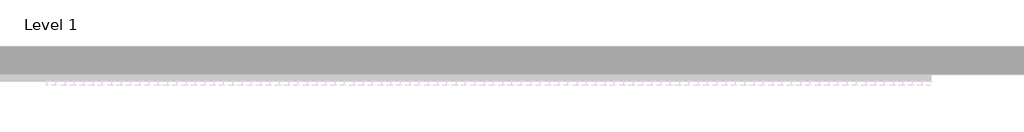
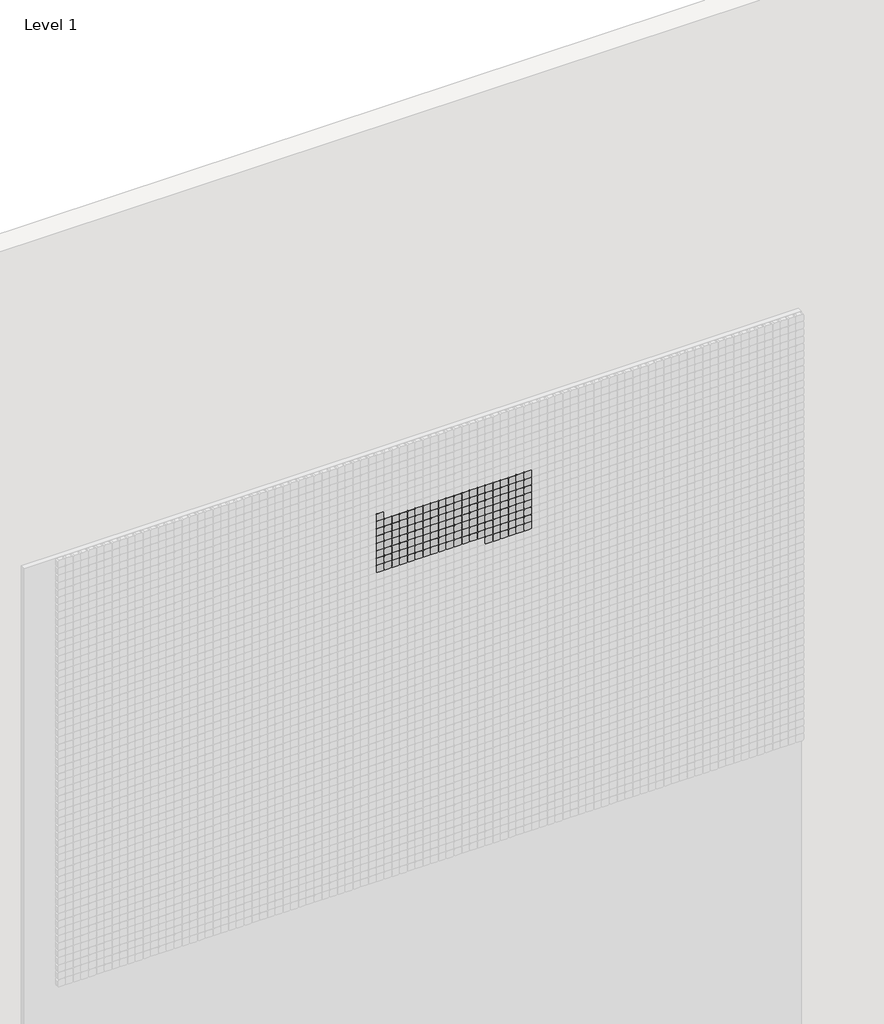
# One storey, part 36 of 71: 147 proxies.
"""IFC4 building model written with IfcOpenShell, lengths in millimetres."""

from ifc_helpers import new_model, si_unit, origin, place, context, project, spatial, transform, mapped, element, save
from components import generic_models_afde289c

model = new_model("IFC4")

# Units and contexts
model_context = context("Model", 3, world=origin())
ifc_project = project(units=[si_unit("LENGTHUNIT", "METRE", prefix="MILLI")], contexts=[model_context])

# Site, building, storey
site = spatial("IfcSite", under=ifc_project)
building = spatial("IfcBuilding", under=site)
storey = spatial("IfcBuildingStorey", under=building, Name="Level 1", Elevation=0.0)

# Proxies
placement = place(None, origin())
generic_models_shape = generic_models_afde289c(model_context)
element("IfcBuildingElementProxy", 1, Name="Pixel_M : Pixel_M", ObjectType="Pixel_M : Pixel_M", at=placement, inside=storey, context=model_context, shape_type="MappedRepresentation", body=[
    mapped(generic_models_shape, transform((7012.4280941, -75.0, 5566.3566215), x_axis=(1.0, 0.0, 0.0), y_axis=(0.0, 0.0, 1.0), z_axis=(0.0, -1.0, 0.0))),
])
element("IfcBuildingElementProxy", 2, Name="Pixel_M : Pixel_M", ObjectType="Pixel_M : Pixel_M", at=placement, inside=storey, context=model_context, shape_type="MappedRepresentation", body=[
    mapped(generic_models_shape, transform((7962.4280941, -75.0, 5516.3566215), x_axis=(1.0, 0.0, 0.0), y_axis=(0.0, 0.0, 1.0), z_axis=(0.0, -1.0, 0.0))),
])
element("IfcBuildingElementProxy", 3, Name="Pixel_M : Pixel_M", ObjectType="Pixel_M : Pixel_M", at=placement, inside=storey, context=model_context, shape_type="MappedRepresentation", body=[
    mapped(generic_models_shape, transform((7912.4280941, -75.0, 5516.3566215), x_axis=(1.0, 0.0, 0.0), y_axis=(0.0, 0.0, 1.0), z_axis=(0.0, -1.0, 0.0))),
])
element("IfcBuildingElementProxy", 4, Name="Pixel_M : Pixel_M", ObjectType="Pixel_M : Pixel_M", at=placement, inside=storey, context=model_context, shape_type="MappedRepresentation", body=[
    mapped(generic_models_shape, transform((7862.4280941, -75.0, 5516.3566215), x_axis=(1.0, 0.0, 0.0), y_axis=(0.0, 0.0, 1.0), z_axis=(0.0, -1.0, 0.0))),
])
element("IfcBuildingElementProxy", 5, Name="Pixel_M : Pixel_M", ObjectType="Pixel_M : Pixel_M", at=placement, inside=storey, context=model_context, shape_type="MappedRepresentation", body=[
    mapped(generic_models_shape, transform((7812.4280941, -75.0, 5516.3566215), x_axis=(1.0, 0.0, 0.0), y_axis=(0.0, 0.0, 1.0), z_axis=(0.0, -1.0, 0.0))),
])
element("IfcBuildingElementProxy", 6, Name="Pixel_M : Pixel_M", ObjectType="Pixel_M : Pixel_M", at=placement, inside=storey, context=model_context, shape_type="MappedRepresentation", body=[
    mapped(generic_models_shape, transform((7762.4280941, -75.0, 5516.3566215), x_axis=(1.0, 0.0, 0.0), y_axis=(0.0, 0.0, 1.0), z_axis=(0.0, -1.0, 0.0))),
])
element("IfcBuildingElementProxy", 7, Name="Pixel_M : Pixel_M", ObjectType="Pixel_M : Pixel_M", at=placement, inside=storey, context=model_context, shape_type="MappedRepresentation", body=[
    mapped(generic_models_shape, transform((7712.4280941, -75.0, 5516.3566215), x_axis=(1.0, 0.0, 0.0), y_axis=(0.0, 0.0, 1.0), z_axis=(0.0, -1.0, 0.0))),
])
element("IfcBuildingElementProxy", 8, Name="Pixel_M : Pixel_M", ObjectType="Pixel_M : Pixel_M", at=placement, inside=storey, context=model_context, shape_type="MappedRepresentation", body=[
    mapped(generic_models_shape, transform((7662.4280941, -75.0, 5516.3566215), x_axis=(1.0, 0.0, 0.0), y_axis=(0.0, 0.0, 1.0), z_axis=(0.0, -1.0, 0.0))),
])
element("IfcBuildingElementProxy", 9, Name="Pixel_M : Pixel_M", ObjectType="Pixel_M : Pixel_M", at=placement, inside=storey, context=model_context, shape_type="MappedRepresentation", body=[
    mapped(generic_models_shape, transform((7612.4280941, -75.0, 5516.3566215), x_axis=(1.0, 0.0, 0.0), y_axis=(0.0, 0.0, 1.0), z_axis=(0.0, -1.0, 0.0))),
])
element("IfcBuildingElementProxy", 10, Name="Pixel_M : Pixel_M", ObjectType="Pixel_M : Pixel_M", at=placement, inside=storey, context=model_context, shape_type="MappedRepresentation", body=[
    mapped(generic_models_shape, transform((7562.4280941, -75.0, 5516.3566215), x_axis=(1.0, 0.0, 0.0), y_axis=(0.0, 0.0, 1.0), z_axis=(0.0, -1.0, 0.0))),
])
element("IfcBuildingElementProxy", 11, Name="Pixel_M : Pixel_M", ObjectType="Pixel_M : Pixel_M", at=placement, inside=storey, context=model_context, shape_type="MappedRepresentation", body=[
    mapped(generic_models_shape, transform((7512.4280941, -75.0, 5516.3566215), x_axis=(1.0, 0.0, 0.0), y_axis=(0.0, 0.0, 1.0), z_axis=(0.0, -1.0, 0.0))),
])
element("IfcBuildingElementProxy", 12, Name="Pixel_M : Pixel_M", ObjectType="Pixel_M : Pixel_M", at=placement, inside=storey, context=model_context, shape_type="MappedRepresentation", body=[
    mapped(generic_models_shape, transform((7462.4280941, -75.0, 5516.3566215), x_axis=(1.0, 0.0, 0.0), y_axis=(0.0, 0.0, 1.0), z_axis=(0.0, -1.0, 0.0))),
])
element("IfcBuildingElementProxy", 13, Name="Pixel_M : Pixel_M", ObjectType="Pixel_M : Pixel_M", at=placement, inside=storey, context=model_context, shape_type="MappedRepresentation", body=[
    mapped(generic_models_shape, transform((7412.4280941, -75.0, 5516.3566215), x_axis=(1.0, 0.0, 0.0), y_axis=(0.0, 0.0, 1.0), z_axis=(0.0, -1.0, 0.0))),
])
element("IfcBuildingElementProxy", 14, Name="Pixel_M : Pixel_M", ObjectType="Pixel_M : Pixel_M", at=placement, inside=storey, context=model_context, shape_type="MappedRepresentation", body=[
    mapped(generic_models_shape, transform((7362.4280941, -75.0, 5516.3566215), x_axis=(1.0, 0.0, 0.0), y_axis=(0.0, 0.0, 1.0), z_axis=(0.0, -1.0, 0.0))),
])
element("IfcBuildingElementProxy", 15, Name="Pixel_M : Pixel_M", ObjectType="Pixel_M : Pixel_M", at=placement, inside=storey, context=model_context, shape_type="MappedRepresentation", body=[
    mapped(generic_models_shape, transform((7312.4280941, -75.0, 5516.3566215), x_axis=(1.0, 0.0, 0.0), y_axis=(0.0, 0.0, 1.0), z_axis=(0.0, -1.0, 0.0))),
])
element("IfcBuildingElementProxy", 16, Name="Pixel_M : Pixel_M", ObjectType="Pixel_M : Pixel_M", at=placement, inside=storey, context=model_context, shape_type="MappedRepresentation", body=[
    mapped(generic_models_shape, transform((7262.4280941, -75.0, 5516.3566215), x_axis=(1.0, 0.0, 0.0), y_axis=(0.0, 0.0, 1.0), z_axis=(0.0, -1.0, 0.0))),
])
element("IfcBuildingElementProxy", 17, Name="Pixel_M : Pixel_M", ObjectType="Pixel_M : Pixel_M", at=placement, inside=storey, context=model_context, shape_type="MappedRepresentation", body=[
    mapped(generic_models_shape, transform((7212.4280941, -75.0, 5516.3566215), x_axis=(1.0, 0.0, 0.0), y_axis=(0.0, 0.0, 1.0), z_axis=(0.0, -1.0, 0.0))),
])
element("IfcBuildingElementProxy", 18, Name="Pixel_M : Pixel_M", ObjectType="Pixel_M : Pixel_M", at=placement, inside=storey, context=model_context, shape_type="MappedRepresentation", body=[
    mapped(generic_models_shape, transform((7162.4280941, -75.0, 5516.3566215), x_axis=(1.0, 0.0, 0.0), y_axis=(0.0, 0.0, 1.0), z_axis=(0.0, -1.0, 0.0))),
])
element("IfcBuildingElementProxy", 19, Name="Pixel_M : Pixel_M", ObjectType="Pixel_M : Pixel_M", at=placement, inside=storey, context=model_context, shape_type="MappedRepresentation", body=[
    mapped(generic_models_shape, transform((7112.4280941, -75.0, 5516.3566215), x_axis=(1.0, 0.0, 0.0), y_axis=(0.0, 0.0, 1.0), z_axis=(0.0, -1.0, 0.0))),
])
element("IfcBuildingElementProxy", 20, Name="Pixel_M : Pixel_M", ObjectType="Pixel_M : Pixel_M", at=placement, inside=storey, context=model_context, shape_type="MappedRepresentation", body=[
    mapped(generic_models_shape, transform((7062.4280941, -75.0, 5516.3566215), x_axis=(1.0, 0.0, 0.0), y_axis=(0.0, 0.0, 1.0), z_axis=(0.0, -1.0, 0.0))),
])
element("IfcBuildingElementProxy", 21, Name="Pixel_M : Pixel_M", ObjectType="Pixel_M : Pixel_M", at=placement, inside=storey, context=model_context, shape_type="MappedRepresentation", body=[
    mapped(generic_models_shape, transform((7012.4280941, -75.0, 5516.3566215), x_axis=(1.0, 0.0, 0.0), y_axis=(0.0, 0.0, 1.0), z_axis=(0.0, -1.0, 0.0))),
])
element("IfcBuildingElementProxy", 22, Name="Pixel_M : Pixel_M", ObjectType="Pixel_M : Pixel_M", at=placement, inside=storey, context=model_context, shape_type="MappedRepresentation", body=[
    mapped(generic_models_shape, transform((7962.4280941, -75.0, 5466.3566215), x_axis=(1.0, 0.0, 0.0), y_axis=(0.0, 0.0, 1.0), z_axis=(0.0, -1.0, 0.0))),
])
element("IfcBuildingElementProxy", 23, Name="Pixel_M : Pixel_M", ObjectType="Pixel_M : Pixel_M", at=placement, inside=storey, context=model_context, shape_type="MappedRepresentation", body=[
    mapped(generic_models_shape, transform((7912.4280941, -75.0, 5466.3566215), x_axis=(1.0, 0.0, 0.0), y_axis=(0.0, 0.0, 1.0), z_axis=(0.0, -1.0, 0.0))),
])
element("IfcBuildingElementProxy", 24, Name="Pixel_M : Pixel_M", ObjectType="Pixel_M : Pixel_M", at=placement, inside=storey, context=model_context, shape_type="MappedRepresentation", body=[
    mapped(generic_models_shape, transform((7862.4280941, -75.0, 5466.3566215), x_axis=(1.0, 0.0, 0.0), y_axis=(0.0, 0.0, 1.0), z_axis=(0.0, -1.0, 0.0))),
])
element("IfcBuildingElementProxy", 25, Name="Pixel_M : Pixel_M", ObjectType="Pixel_M : Pixel_M", at=placement, inside=storey, context=model_context, shape_type="MappedRepresentation", body=[
    mapped(generic_models_shape, transform((7812.4280941, -75.0, 5466.3566215), x_axis=(1.0, 0.0, 0.0), y_axis=(0.0, 0.0, 1.0), z_axis=(0.0, -1.0, 0.0))),
])
element("IfcBuildingElementProxy", 26, Name="Pixel_M : Pixel_M", ObjectType="Pixel_M : Pixel_M", at=placement, inside=storey, context=model_context, shape_type="MappedRepresentation", body=[
    mapped(generic_models_shape, transform((7762.4280941, -75.0, 5466.3566215), x_axis=(1.0, 0.0, 0.0), y_axis=(0.0, 0.0, 1.0), z_axis=(0.0, -1.0, 0.0))),
])
element("IfcBuildingElementProxy", 27, Name="Pixel_M : Pixel_M", ObjectType="Pixel_M : Pixel_M", at=placement, inside=storey, context=model_context, shape_type="MappedRepresentation", body=[
    mapped(generic_models_shape, transform((7712.4280941, -75.0, 5466.3566215), x_axis=(1.0, 0.0, 0.0), y_axis=(0.0, 0.0, 1.0), z_axis=(0.0, -1.0, 0.0))),
])
element("IfcBuildingElementProxy", 28, Name="Pixel_M : Pixel_M", ObjectType="Pixel_M : Pixel_M", at=placement, inside=storey, context=model_context, shape_type="MappedRepresentation", body=[
    mapped(generic_models_shape, transform((7662.4280941, -75.0, 5466.3566215), x_axis=(1.0, 0.0, 0.0), y_axis=(0.0, 0.0, 1.0), z_axis=(0.0, -1.0, 0.0))),
])
element("IfcBuildingElementProxy", 29, Name="Pixel_M : Pixel_M", ObjectType="Pixel_M : Pixel_M", at=placement, inside=storey, context=model_context, shape_type="MappedRepresentation", body=[
    mapped(generic_models_shape, transform((7612.4280941, -75.0, 5466.3566215), x_axis=(1.0, 0.0, 0.0), y_axis=(0.0, 0.0, 1.0), z_axis=(0.0, -1.0, 0.0))),
])
element("IfcBuildingElementProxy", 30, Name="Pixel_M : Pixel_M", ObjectType="Pixel_M : Pixel_M", at=placement, inside=storey, context=model_context, shape_type="MappedRepresentation", body=[
    mapped(generic_models_shape, transform((7562.4280941, -75.0, 5466.3566215), x_axis=(1.0, 0.0, 0.0), y_axis=(0.0, 0.0, 1.0), z_axis=(0.0, -1.0, 0.0))),
])
element("IfcBuildingElementProxy", 31, Name="Pixel_M : Pixel_M", ObjectType="Pixel_M : Pixel_M", at=placement, inside=storey, context=model_context, shape_type="MappedRepresentation", body=[
    mapped(generic_models_shape, transform((7512.4280941, -75.0, 5466.3566215), x_axis=(1.0, 0.0, 0.0), y_axis=(0.0, 0.0, 1.0), z_axis=(0.0, -1.0, 0.0))),
])
element("IfcBuildingElementProxy", 32, Name="Pixel_M : Pixel_M", ObjectType="Pixel_M : Pixel_M", at=placement, inside=storey, context=model_context, shape_type="MappedRepresentation", body=[
    mapped(generic_models_shape, transform((7462.4280941, -75.0, 5466.3566215), x_axis=(1.0, 0.0, 0.0), y_axis=(0.0, 0.0, 1.0), z_axis=(0.0, -1.0, 0.0))),
])
element("IfcBuildingElementProxy", 33, Name="Pixel_M : Pixel_M", ObjectType="Pixel_M : Pixel_M", at=placement, inside=storey, context=model_context, shape_type="MappedRepresentation", body=[
    mapped(generic_models_shape, transform((7412.4280941, -75.0, 5466.3566215), x_axis=(1.0, 0.0, 0.0), y_axis=(0.0, 0.0, 1.0), z_axis=(0.0, -1.0, 0.0))),
])
element("IfcBuildingElementProxy", 34, Name="Pixel_M : Pixel_M", ObjectType="Pixel_M : Pixel_M", at=placement, inside=storey, context=model_context, shape_type="MappedRepresentation", body=[
    mapped(generic_models_shape, transform((7362.4280941, -75.0, 5466.3566215), x_axis=(1.0, 0.0, 0.0), y_axis=(0.0, 0.0, 1.0), z_axis=(0.0, -1.0, 0.0))),
])
element("IfcBuildingElementProxy", 35, Name="Pixel_M : Pixel_M", ObjectType="Pixel_M : Pixel_M", at=placement, inside=storey, context=model_context, shape_type="MappedRepresentation", body=[
    mapped(generic_models_shape, transform((7312.4280941, -75.0, 5466.3566215), x_axis=(1.0, 0.0, 0.0), y_axis=(0.0, 0.0, 1.0), z_axis=(0.0, -1.0, 0.0))),
])
element("IfcBuildingElementProxy", 36, Name="Pixel_M : Pixel_M", ObjectType="Pixel_M : Pixel_M", at=placement, inside=storey, context=model_context, shape_type="MappedRepresentation", body=[
    mapped(generic_models_shape, transform((7262.4280941, -75.0, 5466.3566215), x_axis=(1.0, 0.0, 0.0), y_axis=(0.0, 0.0, 1.0), z_axis=(0.0, -1.0, 0.0))),
])
element("IfcBuildingElementProxy", 37, Name="Pixel_M : Pixel_M", ObjectType="Pixel_M : Pixel_M", at=placement, inside=storey, context=model_context, shape_type="MappedRepresentation", body=[
    mapped(generic_models_shape, transform((7212.4280941, -75.0, 5466.3566215), x_axis=(1.0, 0.0, 0.0), y_axis=(0.0, 0.0, 1.0), z_axis=(0.0, -1.0, 0.0))),
])
element("IfcBuildingElementProxy", 38, Name="Pixel_M : Pixel_M", ObjectType="Pixel_M : Pixel_M", at=placement, inside=storey, context=model_context, shape_type="MappedRepresentation", body=[
    mapped(generic_models_shape, transform((7162.4280941, -75.0, 5466.3566215), x_axis=(1.0, 0.0, 0.0), y_axis=(0.0, 0.0, 1.0), z_axis=(0.0, -1.0, 0.0))),
])
element("IfcBuildingElementProxy", 39, Name="Pixel_M : Pixel_M", ObjectType="Pixel_M : Pixel_M", at=placement, inside=storey, context=model_context, shape_type="MappedRepresentation", body=[
    mapped(generic_models_shape, transform((7112.4280941, -75.0, 5466.3566215), x_axis=(1.0, 0.0, 0.0), y_axis=(0.0, 0.0, 1.0), z_axis=(0.0, -1.0, 0.0))),
])
element("IfcBuildingElementProxy", 40, Name="Pixel_M : Pixel_M", ObjectType="Pixel_M : Pixel_M", at=placement, inside=storey, context=model_context, shape_type="MappedRepresentation", body=[
    mapped(generic_models_shape, transform((7062.4280941, -75.0, 5466.3566215), x_axis=(1.0, 0.0, 0.0), y_axis=(0.0, 0.0, 1.0), z_axis=(0.0, -1.0, 0.0))),
])
element("IfcBuildingElementProxy", 41, Name="Pixel_M : Pixel_M", ObjectType="Pixel_M : Pixel_M", at=placement, inside=storey, context=model_context, shape_type="MappedRepresentation", body=[
    mapped(generic_models_shape, transform((7012.4280941, -75.0, 5466.3566215), x_axis=(1.0, 0.0, 0.0), y_axis=(0.0, 0.0, 1.0), z_axis=(0.0, -1.0, 0.0))),
])
element("IfcBuildingElementProxy", 42, Name="Pixel_M : Pixel_M", ObjectType="Pixel_M : Pixel_M", at=placement, inside=storey, context=model_context, shape_type="MappedRepresentation", body=[
    mapped(generic_models_shape, transform((7962.4280941, -75.0, 5416.3566215), x_axis=(1.0, 0.0, 0.0), y_axis=(0.0, 0.0, 1.0), z_axis=(0.0, -1.0, 0.0))),
])
element("IfcBuildingElementProxy", 43, Name="Pixel_M : Pixel_M", ObjectType="Pixel_M : Pixel_M", at=placement, inside=storey, context=model_context, shape_type="MappedRepresentation", body=[
    mapped(generic_models_shape, transform((7912.4280941, -75.0, 5416.3566215), x_axis=(1.0, 0.0, 0.0), y_axis=(0.0, 0.0, 1.0), z_axis=(0.0, -1.0, 0.0))),
])
element("IfcBuildingElementProxy", 44, Name="Pixel_M : Pixel_M", ObjectType="Pixel_M : Pixel_M", at=placement, inside=storey, context=model_context, shape_type="MappedRepresentation", body=[
    mapped(generic_models_shape, transform((7862.4280941, -75.0, 5416.3566215), x_axis=(1.0, 0.0, 0.0), y_axis=(0.0, 0.0, 1.0), z_axis=(0.0, -1.0, 0.0))),
])
element("IfcBuildingElementProxy", 45, Name="Pixel_M : Pixel_M", ObjectType="Pixel_M : Pixel_M", at=placement, inside=storey, context=model_context, shape_type="MappedRepresentation", body=[
    mapped(generic_models_shape, transform((7812.4280941, -75.0, 5416.3566215), x_axis=(1.0, 0.0, 0.0), y_axis=(0.0, 0.0, 1.0), z_axis=(0.0, -1.0, 0.0))),
])
element("IfcBuildingElementProxy", 46, Name="Pixel_M : Pixel_M", ObjectType="Pixel_M : Pixel_M", at=placement, inside=storey, context=model_context, shape_type="MappedRepresentation", body=[
    mapped(generic_models_shape, transform((7762.4280941, -75.0, 5416.3566215), x_axis=(1.0, 0.0, 0.0), y_axis=(0.0, 0.0, 1.0), z_axis=(0.0, -1.0, 0.0))),
])
element("IfcBuildingElementProxy", 47, Name="Pixel_M : Pixel_M", ObjectType="Pixel_M : Pixel_M", at=placement, inside=storey, context=model_context, shape_type="MappedRepresentation", body=[
    mapped(generic_models_shape, transform((7712.4280941, -75.0, 5416.3566215), x_axis=(1.0, 0.0, 0.0), y_axis=(0.0, 0.0, 1.0), z_axis=(0.0, -1.0, 0.0))),
])
element("IfcBuildingElementProxy", 48, Name="Pixel_M : Pixel_M", ObjectType="Pixel_M : Pixel_M", at=placement, inside=storey, context=model_context, shape_type="MappedRepresentation", body=[
    mapped(generic_models_shape, transform((7662.4280941, -75.0, 5416.3566215), x_axis=(1.0, 0.0, 0.0), y_axis=(0.0, 0.0, 1.0), z_axis=(0.0, -1.0, 0.0))),
])
element("IfcBuildingElementProxy", 49, Name="Pixel_M : Pixel_M", ObjectType="Pixel_M : Pixel_M", at=placement, inside=storey, context=model_context, shape_type="MappedRepresentation", body=[
    mapped(generic_models_shape, transform((7612.4280941, -75.0, 5416.3566215), x_axis=(1.0, 0.0, 0.0), y_axis=(0.0, 0.0, 1.0), z_axis=(0.0, -1.0, 0.0))),
])
element("IfcBuildingElementProxy", 50, Name="Pixel_M : Pixel_M", ObjectType="Pixel_M : Pixel_M", at=placement, inside=storey, context=model_context, shape_type="MappedRepresentation", body=[
    mapped(generic_models_shape, transform((7562.4280941, -75.0, 5416.3566215), x_axis=(1.0, 0.0, 0.0), y_axis=(0.0, 0.0, 1.0), z_axis=(0.0, -1.0, 0.0))),
])
element("IfcBuildingElementProxy", 51, Name="Pixel_M : Pixel_M", ObjectType="Pixel_M : Pixel_M", at=placement, inside=storey, context=model_context, shape_type="MappedRepresentation", body=[
    mapped(generic_models_shape, transform((7512.4280941, -75.0, 5416.3566215), x_axis=(1.0, 0.0, 0.0), y_axis=(0.0, 0.0, 1.0), z_axis=(0.0, -1.0, 0.0))),
])
element("IfcBuildingElementProxy", 52, Name="Pixel_M : Pixel_M", ObjectType="Pixel_M : Pixel_M", at=placement, inside=storey, context=model_context, shape_type="MappedRepresentation", body=[
    mapped(generic_models_shape, transform((7462.4280941, -75.0, 5416.3566215), x_axis=(1.0, 0.0, 0.0), y_axis=(0.0, 0.0, 1.0), z_axis=(0.0, -1.0, 0.0))),
])
element("IfcBuildingElementProxy", 53, Name="Pixel_M : Pixel_M", ObjectType="Pixel_M : Pixel_M", at=placement, inside=storey, context=model_context, shape_type="MappedRepresentation", body=[
    mapped(generic_models_shape, transform((7412.4280941, -75.0, 5416.3566215), x_axis=(1.0, 0.0, 0.0), y_axis=(0.0, 0.0, 1.0), z_axis=(0.0, -1.0, 0.0))),
])
element("IfcBuildingElementProxy", 54, Name="Pixel_M : Pixel_M", ObjectType="Pixel_M : Pixel_M", at=placement, inside=storey, context=model_context, shape_type="MappedRepresentation", body=[
    mapped(generic_models_shape, transform((7362.4280941, -75.0, 5416.3566215), x_axis=(1.0, 0.0, 0.0), y_axis=(0.0, 0.0, 1.0), z_axis=(0.0, -1.0, 0.0))),
])
element("IfcBuildingElementProxy", 55, Name="Pixel_M : Pixel_M", ObjectType="Pixel_M : Pixel_M", at=placement, inside=storey, context=model_context, shape_type="MappedRepresentation", body=[
    mapped(generic_models_shape, transform((7312.4280941, -75.0, 5416.3566215), x_axis=(1.0, 0.0, 0.0), y_axis=(0.0, 0.0, 1.0), z_axis=(0.0, -1.0, 0.0))),
])
element("IfcBuildingElementProxy", 56, Name="Pixel_M : Pixel_M", ObjectType="Pixel_M : Pixel_M", at=placement, inside=storey, context=model_context, shape_type="MappedRepresentation", body=[
    mapped(generic_models_shape, transform((7262.4280941, -75.0, 5416.3566215), x_axis=(1.0, 0.0, 0.0), y_axis=(0.0, 0.0, 1.0), z_axis=(0.0, -1.0, 0.0))),
])
element("IfcBuildingElementProxy", 57, Name="Pixel_M : Pixel_M", ObjectType="Pixel_M : Pixel_M", at=placement, inside=storey, context=model_context, shape_type="MappedRepresentation", body=[
    mapped(generic_models_shape, transform((7212.4280941, -75.0, 5416.3566215), x_axis=(1.0, 0.0, 0.0), y_axis=(0.0, 0.0, 1.0), z_axis=(0.0, -1.0, 0.0))),
])
element("IfcBuildingElementProxy", 58, Name="Pixel_M : Pixel_M", ObjectType="Pixel_M : Pixel_M", at=placement, inside=storey, context=model_context, shape_type="MappedRepresentation", body=[
    mapped(generic_models_shape, transform((7162.4280941, -75.0, 5416.3566215), x_axis=(1.0, 0.0, 0.0), y_axis=(0.0, 0.0, 1.0), z_axis=(0.0, -1.0, 0.0))),
])
element("IfcBuildingElementProxy", 59, Name="Pixel_M : Pixel_M", ObjectType="Pixel_M : Pixel_M", at=placement, inside=storey, context=model_context, shape_type="MappedRepresentation", body=[
    mapped(generic_models_shape, transform((7112.4280941, -75.0, 5416.3566215), x_axis=(1.0, 0.0, 0.0), y_axis=(0.0, 0.0, 1.0), z_axis=(0.0, -1.0, 0.0))),
])
element("IfcBuildingElementProxy", 60, Name="Pixel_M : Pixel_M", ObjectType="Pixel_M : Pixel_M", at=placement, inside=storey, context=model_context, shape_type="MappedRepresentation", body=[
    mapped(generic_models_shape, transform((7062.4280941, -75.0, 5416.3566215), x_axis=(1.0, 0.0, 0.0), y_axis=(0.0, 0.0, 1.0), z_axis=(0.0, -1.0, 0.0))),
])
element("IfcBuildingElementProxy", 61, Name="Pixel_M : Pixel_M", ObjectType="Pixel_M : Pixel_M", at=placement, inside=storey, context=model_context, shape_type="MappedRepresentation", body=[
    mapped(generic_models_shape, transform((7012.4280941, -75.0, 5416.3566215), x_axis=(1.0, 0.0, 0.0), y_axis=(0.0, 0.0, 1.0), z_axis=(0.0, -1.0, 0.0))),
])
element("IfcBuildingElementProxy", 62, Name="Pixel_M : Pixel_M", ObjectType="Pixel_M : Pixel_M", at=placement, inside=storey, context=model_context, shape_type="MappedRepresentation", body=[
    mapped(generic_models_shape, transform((7962.4280941, -75.0, 5366.3566215), x_axis=(1.0, 0.0, 0.0), y_axis=(0.0, 0.0, 1.0), z_axis=(0.0, -1.0, 0.0))),
])
element("IfcBuildingElementProxy", 63, Name="Pixel_M : Pixel_M", ObjectType="Pixel_M : Pixel_M", at=placement, inside=storey, context=model_context, shape_type="MappedRepresentation", body=[
    mapped(generic_models_shape, transform((7912.4280941, -75.0, 5366.3566215), x_axis=(1.0, 0.0, 0.0), y_axis=(0.0, 0.0, 1.0), z_axis=(0.0, -1.0, 0.0))),
])
element("IfcBuildingElementProxy", 64, Name="Pixel_M : Pixel_M", ObjectType="Pixel_M : Pixel_M", at=placement, inside=storey, context=model_context, shape_type="MappedRepresentation", body=[
    mapped(generic_models_shape, transform((7862.4280941, -75.0, 5366.3566215), x_axis=(1.0, 0.0, 0.0), y_axis=(0.0, 0.0, 1.0), z_axis=(0.0, -1.0, 0.0))),
])
element("IfcBuildingElementProxy", 65, Name="Pixel_M : Pixel_M", ObjectType="Pixel_M : Pixel_M", at=placement, inside=storey, context=model_context, shape_type="MappedRepresentation", body=[
    mapped(generic_models_shape, transform((7812.4280941, -75.0, 5366.3566215), x_axis=(1.0, 0.0, 0.0), y_axis=(0.0, 0.0, 1.0), z_axis=(0.0, -1.0, 0.0))),
])
element("IfcBuildingElementProxy", 66, Name="Pixel_M : Pixel_M", ObjectType="Pixel_M : Pixel_M", at=placement, inside=storey, context=model_context, shape_type="MappedRepresentation", body=[
    mapped(generic_models_shape, transform((7762.4280941, -75.0, 5366.3566215), x_axis=(1.0, 0.0, 0.0), y_axis=(0.0, 0.0, 1.0), z_axis=(0.0, -1.0, 0.0))),
])
element("IfcBuildingElementProxy", 67, Name="Pixel_M : Pixel_M", ObjectType="Pixel_M : Pixel_M", at=placement, inside=storey, context=model_context, shape_type="MappedRepresentation", body=[
    mapped(generic_models_shape, transform((7712.4280941, -75.0, 5366.3566215), x_axis=(1.0, 0.0, 0.0), y_axis=(0.0, 0.0, 1.0), z_axis=(0.0, -1.0, 0.0))),
])
element("IfcBuildingElementProxy", 68, Name="Pixel_M : Pixel_M", ObjectType="Pixel_M : Pixel_M", at=placement, inside=storey, context=model_context, shape_type="MappedRepresentation", body=[
    mapped(generic_models_shape, transform((7662.4280941, -75.0, 5366.3566215), x_axis=(1.0, 0.0, 0.0), y_axis=(0.0, 0.0, 1.0), z_axis=(0.0, -1.0, 0.0))),
])
element("IfcBuildingElementProxy", 69, Name="Pixel_M : Pixel_M", ObjectType="Pixel_M : Pixel_M", at=placement, inside=storey, context=model_context, shape_type="MappedRepresentation", body=[
    mapped(generic_models_shape, transform((7612.4280941, -75.0, 5366.3566215), x_axis=(1.0, 0.0, 0.0), y_axis=(0.0, 0.0, 1.0), z_axis=(0.0, -1.0, 0.0))),
])
element("IfcBuildingElementProxy", 70, Name="Pixel_M : Pixel_M", ObjectType="Pixel_M : Pixel_M", at=placement, inside=storey, context=model_context, shape_type="MappedRepresentation", body=[
    mapped(generic_models_shape, transform((7562.4280941, -75.0, 5366.3566215), x_axis=(1.0, 0.0, 0.0), y_axis=(0.0, 0.0, 1.0), z_axis=(0.0, -1.0, 0.0))),
])
element("IfcBuildingElementProxy", 71, Name="Pixel_M : Pixel_M", ObjectType="Pixel_M : Pixel_M", at=placement, inside=storey, context=model_context, shape_type="MappedRepresentation", body=[
    mapped(generic_models_shape, transform((7512.4280941, -75.0, 5366.3566215), x_axis=(1.0, 0.0, 0.0), y_axis=(0.0, 0.0, 1.0), z_axis=(0.0, -1.0, 0.0))),
])
element("IfcBuildingElementProxy", 72, Name="Pixel_M : Pixel_M", ObjectType="Pixel_M : Pixel_M", at=placement, inside=storey, context=model_context, shape_type="MappedRepresentation", body=[
    mapped(generic_models_shape, transform((7462.4280941, -75.0, 5366.3566215), x_axis=(1.0, 0.0, 0.0), y_axis=(0.0, 0.0, 1.0), z_axis=(0.0, -1.0, 0.0))),
])
element("IfcBuildingElementProxy", 73, Name="Pixel_M : Pixel_M", ObjectType="Pixel_M : Pixel_M", at=placement, inside=storey, context=model_context, shape_type="MappedRepresentation", body=[
    mapped(generic_models_shape, transform((7412.4280941, -75.0, 5366.3566215), x_axis=(1.0, 0.0, 0.0), y_axis=(0.0, 0.0, 1.0), z_axis=(0.0, -1.0, 0.0))),
])
element("IfcBuildingElementProxy", 74, Name="Pixel_M : Pixel_M", ObjectType="Pixel_M : Pixel_M", at=placement, inside=storey, context=model_context, shape_type="MappedRepresentation", body=[
    mapped(generic_models_shape, transform((7362.4280941, -75.0, 5366.3566215), x_axis=(1.0, 0.0, 0.0), y_axis=(0.0, 0.0, 1.0), z_axis=(0.0, -1.0, 0.0))),
])
element("IfcBuildingElementProxy", 75, Name="Pixel_M : Pixel_M", ObjectType="Pixel_M : Pixel_M", at=placement, inside=storey, context=model_context, shape_type="MappedRepresentation", body=[
    mapped(generic_models_shape, transform((7312.4280941, -75.0, 5366.3566215), x_axis=(1.0, 0.0, 0.0), y_axis=(0.0, 0.0, 1.0), z_axis=(0.0, -1.0, 0.0))),
])
element("IfcBuildingElementProxy", 76, Name="Pixel_M : Pixel_M", ObjectType="Pixel_M : Pixel_M", at=placement, inside=storey, context=model_context, shape_type="MappedRepresentation", body=[
    mapped(generic_models_shape, transform((7262.4280941, -75.0, 5366.3566215), x_axis=(1.0, 0.0, 0.0), y_axis=(0.0, 0.0, 1.0), z_axis=(0.0, -1.0, 0.0))),
])
element("IfcBuildingElementProxy", 77, Name="Pixel_M : Pixel_M", ObjectType="Pixel_M : Pixel_M", at=placement, inside=storey, context=model_context, shape_type="MappedRepresentation", body=[
    mapped(generic_models_shape, transform((7212.4280941, -75.0, 5366.3566215), x_axis=(1.0, 0.0, 0.0), y_axis=(0.0, 0.0, 1.0), z_axis=(0.0, -1.0, 0.0))),
])
element("IfcBuildingElementProxy", 78, Name="Pixel_M : Pixel_M", ObjectType="Pixel_M : Pixel_M", at=placement, inside=storey, context=model_context, shape_type="MappedRepresentation", body=[
    mapped(generic_models_shape, transform((7162.4280941, -75.0, 5366.3566215), x_axis=(1.0, 0.0, 0.0), y_axis=(0.0, 0.0, 1.0), z_axis=(0.0, -1.0, 0.0))),
])
element("IfcBuildingElementProxy", 79, Name="Pixel_M : Pixel_M", ObjectType="Pixel_M : Pixel_M", at=placement, inside=storey, context=model_context, shape_type="MappedRepresentation", body=[
    mapped(generic_models_shape, transform((7112.4280941, -75.0, 5366.3566215), x_axis=(1.0, 0.0, 0.0), y_axis=(0.0, 0.0, 1.0), z_axis=(0.0, -1.0, 0.0))),
])
element("IfcBuildingElementProxy", 80, Name="Pixel_M : Pixel_M", ObjectType="Pixel_M : Pixel_M", at=placement, inside=storey, context=model_context, shape_type="MappedRepresentation", body=[
    mapped(generic_models_shape, transform((7062.4280941, -75.0, 5366.3566215), x_axis=(1.0, 0.0, 0.0), y_axis=(0.0, 0.0, 1.0), z_axis=(0.0, -1.0, 0.0))),
])
element("IfcBuildingElementProxy", 81, Name="Pixel_M : Pixel_M", ObjectType="Pixel_M : Pixel_M", at=placement, inside=storey, context=model_context, shape_type="MappedRepresentation", body=[
    mapped(generic_models_shape, transform((7012.4280941, -75.0, 5366.3566215), x_axis=(1.0, 0.0, 0.0), y_axis=(0.0, 0.0, 1.0), z_axis=(0.0, -1.0, 0.0))),
])
element("IfcBuildingElementProxy", 82, Name="Pixel_M : Pixel_M", ObjectType="Pixel_M : Pixel_M", at=placement, inside=storey, context=model_context, shape_type="MappedRepresentation", body=[
    mapped(generic_models_shape, transform((7962.4280941, -75.0, 5316.3566215), x_axis=(1.0, 0.0, 0.0), y_axis=(0.0, 0.0, 1.0), z_axis=(0.0, -1.0, 0.0))),
])
element("IfcBuildingElementProxy", 83, Name="Pixel_M : Pixel_M", ObjectType="Pixel_M : Pixel_M", at=placement, inside=storey, context=model_context, shape_type="MappedRepresentation", body=[
    mapped(generic_models_shape, transform((7912.4280941, -75.0, 5316.3566215), x_axis=(1.0, 0.0, 0.0), y_axis=(0.0, 0.0, 1.0), z_axis=(0.0, -1.0, 0.0))),
])
element("IfcBuildingElementProxy", 84, Name="Pixel_M : Pixel_M", ObjectType="Pixel_M : Pixel_M", at=placement, inside=storey, context=model_context, shape_type="MappedRepresentation", body=[
    mapped(generic_models_shape, transform((7862.4280941, -75.0, 5316.3566215), x_axis=(1.0, 0.0, 0.0), y_axis=(0.0, 0.0, 1.0), z_axis=(0.0, -1.0, 0.0))),
])
element("IfcBuildingElementProxy", 85, Name="Pixel_M : Pixel_M", ObjectType="Pixel_M : Pixel_M", at=placement, inside=storey, context=model_context, shape_type="MappedRepresentation", body=[
    mapped(generic_models_shape, transform((7812.4280941, -75.0, 5316.3566215), x_axis=(1.0, 0.0, 0.0), y_axis=(0.0, 0.0, 1.0), z_axis=(0.0, -1.0, 0.0))),
])
element("IfcBuildingElementProxy", 86, Name="Pixel_M : Pixel_M", ObjectType="Pixel_M : Pixel_M", at=placement, inside=storey, context=model_context, shape_type="MappedRepresentation", body=[
    mapped(generic_models_shape, transform((7762.4280941, -75.0, 5316.3566215), x_axis=(1.0, 0.0, 0.0), y_axis=(0.0, 0.0, 1.0), z_axis=(0.0, -1.0, 0.0))),
])
element("IfcBuildingElementProxy", 87, Name="Pixel_M : Pixel_M", ObjectType="Pixel_M : Pixel_M", at=placement, inside=storey, context=model_context, shape_type="MappedRepresentation", body=[
    mapped(generic_models_shape, transform((7712.4280941, -75.0, 5316.3566215), x_axis=(1.0, 0.0, 0.0), y_axis=(0.0, 0.0, 1.0), z_axis=(0.0, -1.0, 0.0))),
])
element("IfcBuildingElementProxy", 88, Name="Pixel_M : Pixel_M", ObjectType="Pixel_M : Pixel_M", at=placement, inside=storey, context=model_context, shape_type="MappedRepresentation", body=[
    mapped(generic_models_shape, transform((7662.4280941, -75.0, 5316.3566215), x_axis=(1.0, 0.0, 0.0), y_axis=(0.0, 0.0, 1.0), z_axis=(0.0, -1.0, 0.0))),
])
element("IfcBuildingElementProxy", 89, Name="Pixel_M : Pixel_M", ObjectType="Pixel_M : Pixel_M", at=placement, inside=storey, context=model_context, shape_type="MappedRepresentation", body=[
    mapped(generic_models_shape, transform((7612.4280941, -75.0, 5316.3566215), x_axis=(1.0, 0.0, 0.0), y_axis=(0.0, 0.0, 1.0), z_axis=(0.0, -1.0, 0.0))),
])
element("IfcBuildingElementProxy", 90, Name="Pixel_M : Pixel_M", ObjectType="Pixel_M : Pixel_M", at=placement, inside=storey, context=model_context, shape_type="MappedRepresentation", body=[
    mapped(generic_models_shape, transform((7562.4280941, -75.0, 5316.3566215), x_axis=(1.0, 0.0, 0.0), y_axis=(0.0, 0.0, 1.0), z_axis=(0.0, -1.0, 0.0))),
])
element("IfcBuildingElementProxy", 91, Name="Pixel_M : Pixel_M", ObjectType="Pixel_M : Pixel_M", at=placement, inside=storey, context=model_context, shape_type="MappedRepresentation", body=[
    mapped(generic_models_shape, transform((7512.4280941, -75.0, 5316.3566215), x_axis=(1.0, 0.0, 0.0), y_axis=(0.0, 0.0, 1.0), z_axis=(0.0, -1.0, 0.0))),
])
element("IfcBuildingElementProxy", 92, Name="Pixel_M : Pixel_M", ObjectType="Pixel_M : Pixel_M", at=placement, inside=storey, context=model_context, shape_type="MappedRepresentation", body=[
    mapped(generic_models_shape, transform((7462.4280941, -75.0, 5316.3566215), x_axis=(1.0, 0.0, 0.0), y_axis=(0.0, 0.0, 1.0), z_axis=(0.0, -1.0, 0.0))),
])
element("IfcBuildingElementProxy", 93, Name="Pixel_M : Pixel_M", ObjectType="Pixel_M : Pixel_M", at=placement, inside=storey, context=model_context, shape_type="MappedRepresentation", body=[
    mapped(generic_models_shape, transform((7412.4280941, -75.0, 5316.3566215), x_axis=(1.0, 0.0, 0.0), y_axis=(0.0, 0.0, 1.0), z_axis=(0.0, -1.0, 0.0))),
])
element("IfcBuildingElementProxy", 94, Name="Pixel_M : Pixel_M", ObjectType="Pixel_M : Pixel_M", at=placement, inside=storey, context=model_context, shape_type="MappedRepresentation", body=[
    mapped(generic_models_shape, transform((7362.4280941, -75.0, 5316.3566215), x_axis=(1.0, 0.0, 0.0), y_axis=(0.0, 0.0, 1.0), z_axis=(0.0, -1.0, 0.0))),
])
element("IfcBuildingElementProxy", 95, Name="Pixel_M : Pixel_M", ObjectType="Pixel_M : Pixel_M", at=placement, inside=storey, context=model_context, shape_type="MappedRepresentation", body=[
    mapped(generic_models_shape, transform((7312.4280941, -75.0, 5316.3566215), x_axis=(1.0, 0.0, 0.0), y_axis=(0.0, 0.0, 1.0), z_axis=(0.0, -1.0, 0.0))),
])
element("IfcBuildingElementProxy", 96, Name="Pixel_M : Pixel_M", ObjectType="Pixel_M : Pixel_M", at=placement, inside=storey, context=model_context, shape_type="MappedRepresentation", body=[
    mapped(generic_models_shape, transform((7262.4280941, -75.0, 5316.3566215), x_axis=(1.0, 0.0, 0.0), y_axis=(0.0, 0.0, 1.0), z_axis=(0.0, -1.0, 0.0))),
])
element("IfcBuildingElementProxy", 97, Name="Pixel_M : Pixel_M", ObjectType="Pixel_M : Pixel_M", at=placement, inside=storey, context=model_context, shape_type="MappedRepresentation", body=[
    mapped(generic_models_shape, transform((7212.4280941, -75.0, 5316.3566215), x_axis=(1.0, 0.0, 0.0), y_axis=(0.0, 0.0, 1.0), z_axis=(0.0, -1.0, 0.0))),
])
element("IfcBuildingElementProxy", 98, Name="Pixel_M : Pixel_M", ObjectType="Pixel_M : Pixel_M", at=placement, inside=storey, context=model_context, shape_type="MappedRepresentation", body=[
    mapped(generic_models_shape, transform((7162.4280941, -75.0, 5316.3566215), x_axis=(1.0, 0.0, 0.0), y_axis=(0.0, 0.0, 1.0), z_axis=(0.0, -1.0, 0.0))),
])
element("IfcBuildingElementProxy", 99, Name="Pixel_M : Pixel_M", ObjectType="Pixel_M : Pixel_M", at=placement, inside=storey, context=model_context, shape_type="MappedRepresentation", body=[
    mapped(generic_models_shape, transform((7112.4280941, -75.0, 5316.3566215), x_axis=(1.0, 0.0, 0.0), y_axis=(0.0, 0.0, 1.0), z_axis=(0.0, -1.0, 0.0))),
])
element("IfcBuildingElementProxy", 100, Name="Pixel_M : Pixel_M", ObjectType="Pixel_M : Pixel_M", at=placement, inside=storey, context=model_context, shape_type="MappedRepresentation", body=[
    mapped(generic_models_shape, transform((7062.4280941, -75.0, 5316.3566215), x_axis=(1.0, 0.0, 0.0), y_axis=(0.0, 0.0, 1.0), z_axis=(0.0, -1.0, 0.0))),
])
element("IfcBuildingElementProxy", 101, Name="Pixel_M : Pixel_M", ObjectType="Pixel_M : Pixel_M", at=placement, inside=storey, context=model_context, shape_type="MappedRepresentation", body=[
    mapped(generic_models_shape, transform((7012.4280941, -75.0, 5316.3566215), x_axis=(1.0, 0.0, 0.0), y_axis=(0.0, 0.0, 1.0), z_axis=(0.0, -1.0, 0.0))),
])
element("IfcBuildingElementProxy", 102, Name="Pixel_M : Pixel_M", ObjectType="Pixel_M : Pixel_M", at=placement, inside=storey, context=model_context, shape_type="MappedRepresentation", body=[
    mapped(generic_models_shape, transform((7962.4280941, -75.0, 5266.3566215), x_axis=(1.0, 0.0, 0.0), y_axis=(0.0, 0.0, 1.0), z_axis=(0.0, -1.0, 0.0))),
])
element("IfcBuildingElementProxy", 103, Name="Pixel_M : Pixel_M", ObjectType="Pixel_M : Pixel_M", at=placement, inside=storey, context=model_context, shape_type="MappedRepresentation", body=[
    mapped(generic_models_shape, transform((7912.4280941, -75.0, 5266.3566215), x_axis=(1.0, 0.0, 0.0), y_axis=(0.0, 0.0, 1.0), z_axis=(0.0, -1.0, 0.0))),
])
element("IfcBuildingElementProxy", 104, Name="Pixel_M : Pixel_M", ObjectType="Pixel_M : Pixel_M", at=placement, inside=storey, context=model_context, shape_type="MappedRepresentation", body=[
    mapped(generic_models_shape, transform((7862.4280941, -75.0, 5266.3566215), x_axis=(1.0, 0.0, 0.0), y_axis=(0.0, 0.0, 1.0), z_axis=(0.0, -1.0, 0.0))),
])
element("IfcBuildingElementProxy", 105, Name="Pixel_M : Pixel_M", ObjectType="Pixel_M : Pixel_M", at=placement, inside=storey, context=model_context, shape_type="MappedRepresentation", body=[
    mapped(generic_models_shape, transform((7812.4280941, -75.0, 5266.3566215), x_axis=(1.0, 0.0, 0.0), y_axis=(0.0, 0.0, 1.0), z_axis=(0.0, -1.0, 0.0))),
])
element("IfcBuildingElementProxy", 106, Name="Pixel_M : Pixel_M", ObjectType="Pixel_M : Pixel_M", at=placement, inside=storey, context=model_context, shape_type="MappedRepresentation", body=[
    mapped(generic_models_shape, transform((7762.4280941, -75.0, 5266.3566215), x_axis=(1.0, 0.0, 0.0), y_axis=(0.0, 0.0, 1.0), z_axis=(0.0, -1.0, 0.0))),
])
element("IfcBuildingElementProxy", 107, Name="Pixel_M : Pixel_M", ObjectType="Pixel_M : Pixel_M", at=placement, inside=storey, context=model_context, shape_type="MappedRepresentation", body=[
    mapped(generic_models_shape, transform((7712.4280941, -75.0, 5266.3566215), x_axis=(1.0, 0.0, 0.0), y_axis=(0.0, 0.0, 1.0), z_axis=(0.0, -1.0, 0.0))),
])
element("IfcBuildingElementProxy", 108, Name="Pixel_M : Pixel_M", ObjectType="Pixel_M : Pixel_M", at=placement, inside=storey, context=model_context, shape_type="MappedRepresentation", body=[
    mapped(generic_models_shape, transform((7662.4280941, -75.0, 5266.3566215), x_axis=(1.0, 0.0, 0.0), y_axis=(0.0, 0.0, 1.0), z_axis=(0.0, -1.0, 0.0))),
])
element("IfcBuildingElementProxy", 109, Name="Pixel_M : Pixel_M", ObjectType="Pixel_M : Pixel_M", at=placement, inside=storey, context=model_context, shape_type="MappedRepresentation", body=[
    mapped(generic_models_shape, transform((7612.4280941, -75.0, 5266.3566215), x_axis=(1.0, 0.0, 0.0), y_axis=(0.0, 0.0, 1.0), z_axis=(0.0, -1.0, 0.0))),
])
element("IfcBuildingElementProxy", 110, Name="Pixel_M : Pixel_M", ObjectType="Pixel_M : Pixel_M", at=placement, inside=storey, context=model_context, shape_type="MappedRepresentation", body=[
    mapped(generic_models_shape, transform((7562.4280941, -75.0, 5266.3566215), x_axis=(1.0, 0.0, 0.0), y_axis=(0.0, 0.0, 1.0), z_axis=(0.0, -1.0, 0.0))),
])
element("IfcBuildingElementProxy", 111, Name="Pixel_M : Pixel_M", ObjectType="Pixel_M : Pixel_M", at=placement, inside=storey, context=model_context, shape_type="MappedRepresentation", body=[
    mapped(generic_models_shape, transform((7512.4280941, -75.0, 5266.3566215), x_axis=(1.0, 0.0, 0.0), y_axis=(0.0, 0.0, 1.0), z_axis=(0.0, -1.0, 0.0))),
])
element("IfcBuildingElementProxy", 112, Name="Pixel_M : Pixel_M", ObjectType="Pixel_M : Pixel_M", at=placement, inside=storey, context=model_context, shape_type="MappedRepresentation", body=[
    mapped(generic_models_shape, transform((7462.4280941, -75.0, 5266.3566215), x_axis=(1.0, 0.0, 0.0), y_axis=(0.0, 0.0, 1.0), z_axis=(0.0, -1.0, 0.0))),
])
element("IfcBuildingElementProxy", 113, Name="Pixel_M : Pixel_M", ObjectType="Pixel_M : Pixel_M", at=placement, inside=storey, context=model_context, shape_type="MappedRepresentation", body=[
    mapped(generic_models_shape, transform((7412.4280941, -75.0, 5266.3566215), x_axis=(1.0, 0.0, 0.0), y_axis=(0.0, 0.0, 1.0), z_axis=(0.0, -1.0, 0.0))),
])
element("IfcBuildingElementProxy", 114, Name="Pixel_M : Pixel_M", ObjectType="Pixel_M : Pixel_M", at=placement, inside=storey, context=model_context, shape_type="MappedRepresentation", body=[
    mapped(generic_models_shape, transform((7362.4280941, -75.0, 5266.3566215), x_axis=(1.0, 0.0, 0.0), y_axis=(0.0, 0.0, 1.0), z_axis=(0.0, -1.0, 0.0))),
])
element("IfcBuildingElementProxy", 115, Name="Pixel_M : Pixel_M", ObjectType="Pixel_M : Pixel_M", at=placement, inside=storey, context=model_context, shape_type="MappedRepresentation", body=[
    mapped(generic_models_shape, transform((7312.4280941, -75.0, 5266.3566215), x_axis=(1.0, 0.0, 0.0), y_axis=(0.0, 0.0, 1.0), z_axis=(0.0, -1.0, 0.0))),
])
element("IfcBuildingElementProxy", 116, Name="Pixel_M : Pixel_M", ObjectType="Pixel_M : Pixel_M", at=placement, inside=storey, context=model_context, shape_type="MappedRepresentation", body=[
    mapped(generic_models_shape, transform((7262.4280941, -75.0, 5266.3566215), x_axis=(1.0, 0.0, 0.0), y_axis=(0.0, 0.0, 1.0), z_axis=(0.0, -1.0, 0.0))),
])
element("IfcBuildingElementProxy", 117, Name="Pixel_M : Pixel_M", ObjectType="Pixel_M : Pixel_M", at=placement, inside=storey, context=model_context, shape_type="MappedRepresentation", body=[
    mapped(generic_models_shape, transform((7212.4280941, -75.0, 5266.3566215), x_axis=(1.0, 0.0, 0.0), y_axis=(0.0, 0.0, 1.0), z_axis=(0.0, -1.0, 0.0))),
])
element("IfcBuildingElementProxy", 118, Name="Pixel_M : Pixel_M", ObjectType="Pixel_M : Pixel_M", at=placement, inside=storey, context=model_context, shape_type="MappedRepresentation", body=[
    mapped(generic_models_shape, transform((7162.4280941, -75.0, 5266.3566215), x_axis=(1.0, 0.0, 0.0), y_axis=(0.0, 0.0, 1.0), z_axis=(0.0, -1.0, 0.0))),
])
element("IfcBuildingElementProxy", 119, Name="Pixel_M : Pixel_M", ObjectType="Pixel_M : Pixel_M", at=placement, inside=storey, context=model_context, shape_type="MappedRepresentation", body=[
    mapped(generic_models_shape, transform((7112.4280941, -75.0, 5266.3566215), x_axis=(1.0, 0.0, 0.0), y_axis=(0.0, 0.0, 1.0), z_axis=(0.0, -1.0, 0.0))),
])
element("IfcBuildingElementProxy", 120, Name="Pixel_M : Pixel_M", ObjectType="Pixel_M : Pixel_M", at=placement, inside=storey, context=model_context, shape_type="MappedRepresentation", body=[
    mapped(generic_models_shape, transform((7062.4280941, -75.0, 5266.3566215), x_axis=(1.0, 0.0, 0.0), y_axis=(0.0, 0.0, 1.0), z_axis=(0.0, -1.0, 0.0))),
])
element("IfcBuildingElementProxy", 121, Name="Pixel_M : Pixel_M", ObjectType="Pixel_M : Pixel_M", at=placement, inside=storey, context=model_context, shape_type="MappedRepresentation", body=[
    mapped(generic_models_shape, transform((7012.4280941, -75.0, 5266.3566215), x_axis=(1.0, 0.0, 0.0), y_axis=(0.0, 0.0, 1.0), z_axis=(0.0, -1.0, 0.0))),
])
element("IfcBuildingElementProxy", 122, Name="Pixel_M : Pixel_M", ObjectType="Pixel_M : Pixel_M", at=placement, inside=storey, context=model_context, shape_type="MappedRepresentation", body=[
    mapped(generic_models_shape, transform((7962.4280941, -75.0, 5216.3566215), x_axis=(1.0, 0.0, 0.0), y_axis=(0.0, 0.0, 1.0), z_axis=(0.0, -1.0, 0.0))),
])
element("IfcBuildingElementProxy", 123, Name="Pixel_M : Pixel_M", ObjectType="Pixel_M : Pixel_M", at=placement, inside=storey, context=model_context, shape_type="MappedRepresentation", body=[
    mapped(generic_models_shape, transform((7912.4280941, -75.0, 5216.3566215), x_axis=(1.0, 0.0, 0.0), y_axis=(0.0, 0.0, 1.0), z_axis=(0.0, -1.0, 0.0))),
])
element("IfcBuildingElementProxy", 124, Name="Pixel_M : Pixel_M", ObjectType="Pixel_M : Pixel_M", at=placement, inside=storey, context=model_context, shape_type="MappedRepresentation", body=[
    mapped(generic_models_shape, transform((7862.4280941, -75.0, 5216.3566215), x_axis=(1.0, 0.0, 0.0), y_axis=(0.0, 0.0, 1.0), z_axis=(0.0, -1.0, 0.0))),
])
element("IfcBuildingElementProxy", 125, Name="Pixel_M : Pixel_M", ObjectType="Pixel_M : Pixel_M", at=placement, inside=storey, context=model_context, shape_type="MappedRepresentation", body=[
    mapped(generic_models_shape, transform((7812.4280941, -75.0, 5216.3566215), x_axis=(1.0, 0.0, 0.0), y_axis=(0.0, 0.0, 1.0), z_axis=(0.0, -1.0, 0.0))),
])
element("IfcBuildingElementProxy", 126, Name="Pixel_M : Pixel_M", ObjectType="Pixel_M : Pixel_M", at=placement, inside=storey, context=model_context, shape_type="MappedRepresentation", body=[
    mapped(generic_models_shape, transform((7762.4280941, -75.0, 5216.3566215), x_axis=(1.0, 0.0, 0.0), y_axis=(0.0, 0.0, 1.0), z_axis=(0.0, -1.0, 0.0))),
])
element("IfcBuildingElementProxy", 127, Name="Pixel_M : Pixel_M", ObjectType="Pixel_M : Pixel_M", at=placement, inside=storey, context=model_context, shape_type="MappedRepresentation", body=[
    mapped(generic_models_shape, transform((7712.4280941, -75.0, 5216.3566215), x_axis=(1.0, 0.0, 0.0), y_axis=(0.0, 0.0, 1.0), z_axis=(0.0, -1.0, 0.0))),
])
element("IfcBuildingElementProxy", 128, Name="Pixel_M : Pixel_M", ObjectType="Pixel_M : Pixel_M", at=placement, inside=storey, context=model_context, shape_type="MappedRepresentation", body=[
    mapped(generic_models_shape, transform((7662.4280941, -75.0, 5216.3566215), x_axis=(1.0, 0.0, 0.0), y_axis=(0.0, 0.0, 1.0), z_axis=(0.0, -1.0, 0.0))),
])
element("IfcBuildingElementProxy", 129, Name="Pixel_M : Pixel_M", ObjectType="Pixel_M : Pixel_M", at=placement, inside=storey, context=model_context, shape_type="MappedRepresentation", body=[
    mapped(generic_models_shape, transform((7612.4280941, -75.0, 5216.3566215), x_axis=(1.0, 0.0, 0.0), y_axis=(0.0, 0.0, 1.0), z_axis=(0.0, -1.0, 0.0))),
])
element("IfcBuildingElementProxy", 130, Name="Pixel_M : Pixel_M", ObjectType="Pixel_M : Pixel_M", at=placement, inside=storey, context=model_context, shape_type="MappedRepresentation", body=[
    mapped(generic_models_shape, transform((7562.4280941, -75.0, 5216.3566215), x_axis=(1.0, 0.0, 0.0), y_axis=(0.0, 0.0, 1.0), z_axis=(0.0, -1.0, 0.0))),
])
element("IfcBuildingElementProxy", 131, Name="Pixel_M : Pixel_M", ObjectType="Pixel_M : Pixel_M", at=placement, inside=storey, context=model_context, shape_type="MappedRepresentation", body=[
    mapped(generic_models_shape, transform((7512.4280941, -75.0, 5216.3566215), x_axis=(1.0, 0.0, 0.0), y_axis=(0.0, 0.0, 1.0), z_axis=(0.0, -1.0, 0.0))),
])
element("IfcBuildingElementProxy", 132, Name="Pixel_M : Pixel_M", ObjectType="Pixel_M : Pixel_M", at=placement, inside=storey, context=model_context, shape_type="MappedRepresentation", body=[
    mapped(generic_models_shape, transform((7462.4280941, -75.0, 5216.3566215), x_axis=(1.0, 0.0, 0.0), y_axis=(0.0, 0.0, 1.0), z_axis=(0.0, -1.0, 0.0))),
])
element("IfcBuildingElementProxy", 133, Name="Pixel_M : Pixel_M", ObjectType="Pixel_M : Pixel_M", at=placement, inside=storey, context=model_context, shape_type="MappedRepresentation", body=[
    mapped(generic_models_shape, transform((7412.4280941, -75.0, 5216.3566215), x_axis=(1.0, 0.0, 0.0), y_axis=(0.0, 0.0, 1.0), z_axis=(0.0, -1.0, 0.0))),
])
element("IfcBuildingElementProxy", 134, Name="Pixel_M : Pixel_M", ObjectType="Pixel_M : Pixel_M", at=placement, inside=storey, context=model_context, shape_type="MappedRepresentation", body=[
    mapped(generic_models_shape, transform((7362.4280941, -75.0, 5216.3566215), x_axis=(1.0, 0.0, 0.0), y_axis=(0.0, 0.0, 1.0), z_axis=(0.0, -1.0, 0.0))),
])
element("IfcBuildingElementProxy", 135, Name="Pixel_M : Pixel_M", ObjectType="Pixel_M : Pixel_M", at=placement, inside=storey, context=model_context, shape_type="MappedRepresentation", body=[
    mapped(generic_models_shape, transform((7312.4280941, -75.0, 5216.3566215), x_axis=(1.0, 0.0, 0.0), y_axis=(0.0, 0.0, 1.0), z_axis=(0.0, -1.0, 0.0))),
])
element("IfcBuildingElementProxy", 136, Name="Pixel_M : Pixel_M", ObjectType="Pixel_M : Pixel_M", at=placement, inside=storey, context=model_context, shape_type="MappedRepresentation", body=[
    mapped(generic_models_shape, transform((7262.4280941, -75.0, 5216.3566215), x_axis=(1.0, 0.0, 0.0), y_axis=(0.0, 0.0, 1.0), z_axis=(0.0, -1.0, 0.0))),
])
element("IfcBuildingElementProxy", 137, Name="Pixel_M : Pixel_M", ObjectType="Pixel_M : Pixel_M", at=placement, inside=storey, context=model_context, shape_type="MappedRepresentation", body=[
    mapped(generic_models_shape, transform((7212.4280941, -75.0, 5216.3566215), x_axis=(1.0, 0.0, 0.0), y_axis=(0.0, 0.0, 1.0), z_axis=(0.0, -1.0, 0.0))),
])
element("IfcBuildingElementProxy", 138, Name="Pixel_M : Pixel_M", ObjectType="Pixel_M : Pixel_M", at=placement, inside=storey, context=model_context, shape_type="MappedRepresentation", body=[
    mapped(generic_models_shape, transform((7162.4280941, -75.0, 5216.3566215), x_axis=(1.0, 0.0, 0.0), y_axis=(0.0, 0.0, 1.0), z_axis=(0.0, -1.0, 0.0))),
])
element("IfcBuildingElementProxy", 139, Name="Pixel_M : Pixel_M", ObjectType="Pixel_M : Pixel_M", at=placement, inside=storey, context=model_context, shape_type="MappedRepresentation", body=[
    mapped(generic_models_shape, transform((7112.4280941, -75.0, 5216.3566215), x_axis=(1.0, 0.0, 0.0), y_axis=(0.0, 0.0, 1.0), z_axis=(0.0, -1.0, 0.0))),
])
element("IfcBuildingElementProxy", 140, Name="Pixel_M : Pixel_M", ObjectType="Pixel_M : Pixel_M", at=placement, inside=storey, context=model_context, shape_type="MappedRepresentation", body=[
    mapped(generic_models_shape, transform((7062.4280941, -75.0, 5216.3566215), x_axis=(1.0, 0.0, 0.0), y_axis=(0.0, 0.0, 1.0), z_axis=(0.0, -1.0, 0.0))),
])
element("IfcBuildingElementProxy", 141, Name="Pixel_M : Pixel_M", ObjectType="Pixel_M : Pixel_M", at=placement, inside=storey, context=model_context, shape_type="MappedRepresentation", body=[
    mapped(generic_models_shape, transform((7012.4280941, -75.0, 5216.3566215), x_axis=(1.0, 0.0, 0.0), y_axis=(0.0, 0.0, 1.0), z_axis=(0.0, -1.0, 0.0))),
])
element("IfcBuildingElementProxy", 142, Name="Pixel_M : Pixel_M", ObjectType="Pixel_M : Pixel_M", at=placement, inside=storey, context=model_context, shape_type="MappedRepresentation", body=[
    mapped(generic_models_shape, transform((7962.4280941, -75.0, 5166.3566215), x_axis=(1.0, 0.0, 0.0), y_axis=(0.0, 0.0, 1.0), z_axis=(0.0, -1.0, 0.0))),
])
element("IfcBuildingElementProxy", 143, Name="Pixel_M : Pixel_M", ObjectType="Pixel_M : Pixel_M", at=placement, inside=storey, context=model_context, shape_type="MappedRepresentation", body=[
    mapped(generic_models_shape, transform((7912.4280941, -75.0, 5166.3566215), x_axis=(1.0, 0.0, 0.0), y_axis=(0.0, 0.0, 1.0), z_axis=(0.0, -1.0, 0.0))),
])
element("IfcBuildingElementProxy", 144, Name="Pixel_M : Pixel_M", ObjectType="Pixel_M : Pixel_M", at=placement, inside=storey, context=model_context, shape_type="MappedRepresentation", body=[
    mapped(generic_models_shape, transform((7862.4280941, -75.0, 5166.3566215), x_axis=(1.0, 0.0, 0.0), y_axis=(0.0, 0.0, 1.0), z_axis=(0.0, -1.0, 0.0))),
])
element("IfcBuildingElementProxy", 145, Name="Pixel_M : Pixel_M", ObjectType="Pixel_M : Pixel_M", at=placement, inside=storey, context=model_context, shape_type="MappedRepresentation", body=[
    mapped(generic_models_shape, transform((7812.4280941, -75.0, 5166.3566215), x_axis=(1.0, 0.0, 0.0), y_axis=(0.0, 0.0, 1.0), z_axis=(0.0, -1.0, 0.0))),
])
element("IfcBuildingElementProxy", 146, Name="Pixel_M : Pixel_M", ObjectType="Pixel_M : Pixel_M", at=placement, inside=storey, context=model_context, shape_type="MappedRepresentation", body=[
    mapped(generic_models_shape, transform((7762.4280941, -75.0, 5166.3566215), x_axis=(1.0, 0.0, 0.0), y_axis=(0.0, 0.0, 1.0), z_axis=(0.0, -1.0, 0.0))),
])
element("IfcBuildingElementProxy", 147, Name="Pixel_M : Pixel_M", ObjectType="Pixel_M : Pixel_M", at=placement, inside=storey, context=model_context, shape_type="MappedRepresentation", body=[
    mapped(generic_models_shape, transform((7712.4280941, -75.0, 5166.3566215), x_axis=(1.0, 0.0, 0.0), y_axis=(0.0, 0.0, 1.0), z_axis=(0.0, -1.0, 0.0))),
])

save(model, "model.ifc")
